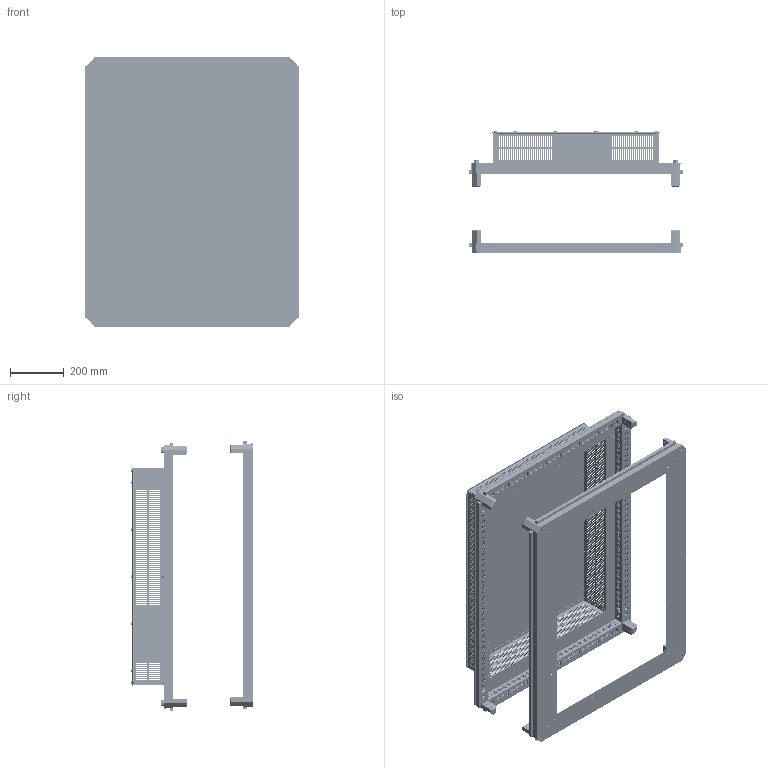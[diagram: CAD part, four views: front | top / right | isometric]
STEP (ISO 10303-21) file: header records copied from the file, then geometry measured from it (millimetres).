
FILE_DESCRIPTION (( 'STEP AP214' ), '1' );
FILE_NAME ('FO-00-KOF-080-100-31 Êðûøà è îñíîâàíèå (ïîä ôëàíåö) 800õ1000 ìì IP31.STEP', '2025-07-23T13:20:21', ( '' ), ( '' ), 'SwSTEP 2.0', 'SolidWorks 2023', '' );
FILE_SCHEMA (( 'AUTOMOTIVE_DESIGN' ));
Products named in the file (3): Крыша под фланец 800х1000  IP31; Основание под фланец 800х1000; FO-00-KOF-080-100-31 Крыша и основание (под фланец) 800х1000 мм IP31
Assembly tree (2 placements, depth 2):
  FO-00-KOF-080-100-31 Крыша и основание (под фланец) 800х1000 мм IP31
    Крыша под фланец 800х1000  IP31
    Основание под фланец 800х1000
Bounding box: 800.36 x 456.6 x 1005.1 mm (x, y, z)
Volume: 5043772.3 mm3; surface area: 4549133.5 mm2
Topology: 2 solids, 66 shells, 9502 faces, 27126 edges, 17992 vertices
Faces by surface type: plane 6606, cylinder 2368, cone 256, bspline 192, sphere 40, torus 40
Entity records: 320085 total; most frequent: CARTESIAN_POINT 63843, ORIENTED_EDGE 54232, DIRECTION 49447, EDGE_CURVE 27116, VECTOR 20793, LINE 20793, VERTEX_POINT 17992, AXIS2_PLACEMENT_3D 14327
